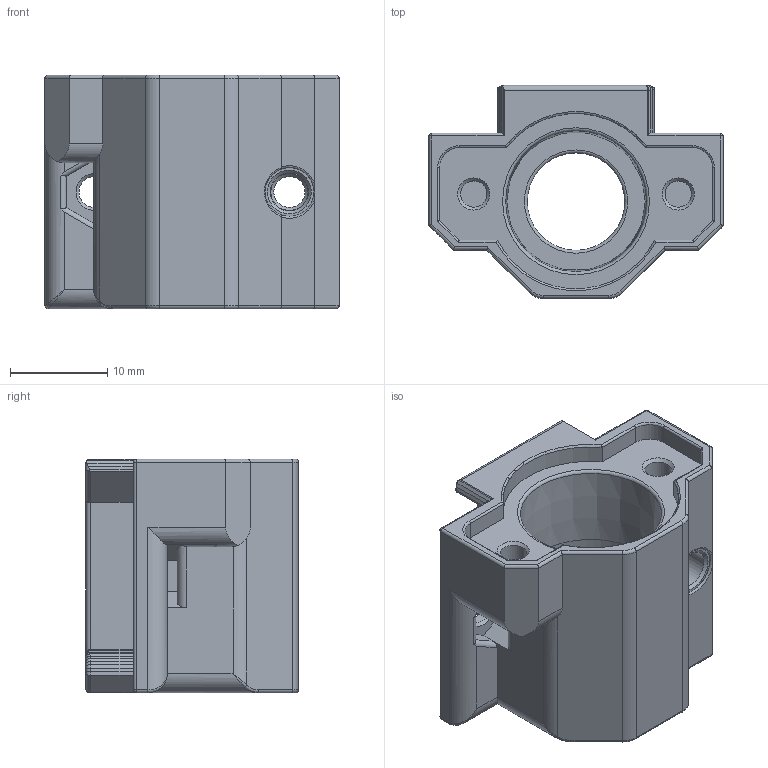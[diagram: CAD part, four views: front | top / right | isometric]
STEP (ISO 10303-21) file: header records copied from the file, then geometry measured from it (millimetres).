
FILE_DESCRIPTION(/* description */ ('FreeCAD Model'),/* implementation_level */ '2;1');
FILE_NAME(/* name */ '\\7800MBZ-PC\Maschinenbau-Projekte\Prusa_Mini_CAD\Linearlager\Linearlager_Sinterbuchsen-8_14_20-Mini-Y-Achse\Export_Step\Caspar_Sinterbuchsen_8x14x20_Mini\PrusaMods_Y-Axis_Bearing_Holder_RJ4JP_+0.20_Loslager_mit_Ausnehmung.stp',/* time_stamp */ '2023-04-10T17:53:54+02:00',/* author */ ('KHG'),/* organization */ (''),/* preprocessor_version */ 'ST-DEVELOPER v18.1',/* originating_system */ 'Autodesk Inventor 2020',/* authorisation */ 'Unknown');
FILE_SCHEMA (('AUTOMOTIVE_DESIGN { 1 0 10303 214 3 1 1 }'));
Length unit declared in the file: millimetre
Products named in the file (1): PrusaMods_Y-Axis_Bearing_Holder_RJ4JP_+0.20_Loslager_mit_Ausnehmung
Bounding box: 30.2 x 21.86 x 24 mm (x, y, z)
Volume: 6397.3 mm3; surface area: 4595.7 mm2
Topology: 1 solids, 1 shells, 324 faces, 829 edges, 522 vertices
Faces by surface type: plane 156, cylinder 93, bspline 50, torus 12, cone 9, sphere 4
Full cylindrical faces by diameter (mm): 2.7 x2, 3.2 x2, 3.9 x1, 5 x1, 10 x1
Entity records: 10385 total; most frequent: CARTESIAN_POINT 2737, ORIENTED_EDGE 1654, DIRECTION 1441, EDGE_CURVE 827, LINE 539, VECTOR 539, VERTEX_POINT 522, AXIS2_PLACEMENT_3D 451
